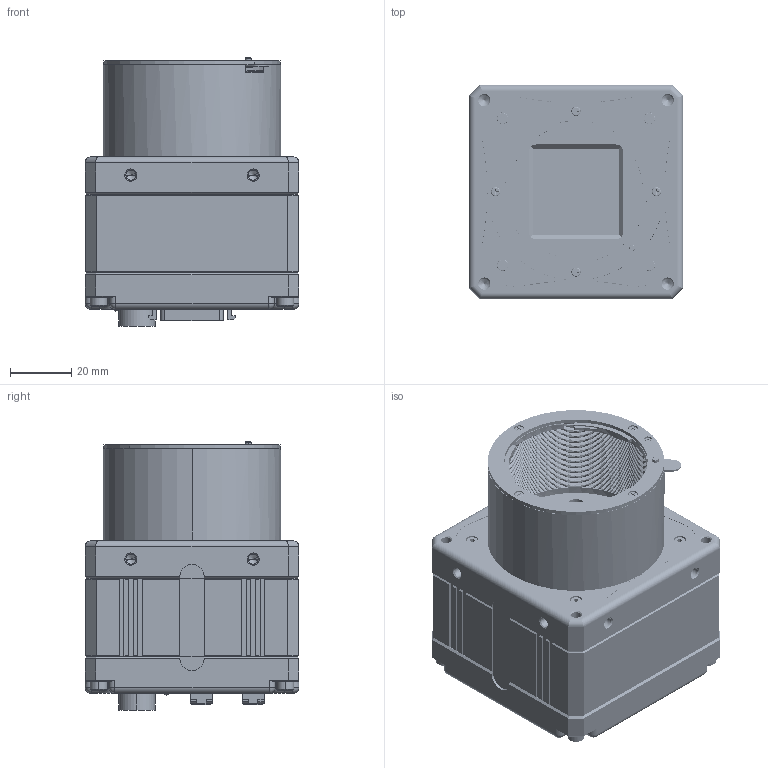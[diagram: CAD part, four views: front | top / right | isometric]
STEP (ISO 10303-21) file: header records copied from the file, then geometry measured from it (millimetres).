
FILE_DESCRIPTION((''),'2;1');
FILE_NAME('HV-M1230C_ASM','2021-04-23T',('Dongwoo'),(''),'CREO PARAMETRIC BY PTC INC, 2016130','CREO PARAMETRIC BY PTC INC, 2016130','');
FILE_SCHEMA(('CONFIG_CONTROL_DESIGN'));
Length unit declared in the file: millimetre
Products named in the file (24): HV-X1230C_BASE_10_1_1; HV-X2535C_MIDDLE_6_1_1; HV-X2535C_BACK_7_1_1; HV-X2535C_SAR_M_GLASS_4_1_1; HV-X2535C_GLASS_COVER_4_1_1; 12MEGA-BACK-BOARD_2_1_1; HIROSE-DF17-3_0-70DS-0_5V_4_1_1; 3M_10226_2210PE_5_1_1; CIR-12P-CONNECTOR_4_1_1; 3PI_LED_4_1_1; 12MEGA-BACK-BOARD-ASSY_ASM_2__1_ASM; BOLT_SH_M2_L5_SUS_3_1_1; BOLT_SH_M3_L25_SUS_4_1_1; HV-X1230C_ASM_18_ASM_1_ASM_1_ASM; HV-X1230C_ASM_ASM_1_ASM_1_ASM; HV-X1230C_ASM_ASM_ASM_1_ASM; F-MOUNT_SPACER_A; F-MOUNT_RING; F-MOUNT_LEVER; F-MOUNT_LOCK_PIN; F-MOUNT_BURRING_PIN; CH_M2_0_L3; F-MOUNT_TYPE_A_ASM; HV-M1230C_ASM
Assembly tree (34 placements, depth 6):
  HV-M1230C_ASM
    HV-X1230C_ASM_ASM_ASM_1_ASM
      HV-X1230C_ASM_ASM_1_ASM_1_ASM
        HV-X1230C_ASM_18_ASM_1_ASM_1_ASM
          HV-X1230C_BASE_10_1_1
          HV-X2535C_MIDDLE_6_1_1
          HV-X2535C_BACK_7_1_1
          HV-X2535C_SAR_M_GLASS_4_1_1
          HV-X2535C_GLASS_COVER_4_1_1
          12MEGA-BACK-BOARD-ASSY_ASM_2__1_ASM
            12MEGA-BACK-BOARD_2_1_1
            HIROSE-DF17-3_0-70DS-0_5V_4_1_1  x2
            3M_10226_2210PE_5_1_1  x2
            CIR-12P-CONNECTOR_4_1_1
            3PI_LED_4_1_1
          BOLT_SH_M2_L5_SUS_3_1_1  x4
          BOLT_SH_M3_L25_SUS_4_1_1  x4
    F-MOUNT_TYPE_A_ASM
      F-MOUNT_SPACER_A
      F-MOUNT_RING
      F-MOUNT_LEVER
      F-MOUNT_LOCK_PIN
      F-MOUNT_BURRING_PIN
      CH_M2_0_L3  x4
Bounding box: 70 x 70 x 87.83 mm (x, y, z)
Volume: 307979.8 mm3; surface area: 106808.7 mm2
Topology: 29 solids, 81 shells, 5061 faces, 14329 edges, 9484 vertices
Faces by surface type: plane 3296, cylinder 1501, cone 179, bspline 55, torus 20, sphere 10
Entity records: 127303 total; most frequent: CARTESIAN_POINT 42753, ORIENTED_EDGE 17676, DIRECTION 17129, EDGE_CURVE 8930, VECTOR 6225, LINE 6225, VERTEX_POINT 5933, AXIS2_PLACEMENT_3D 5452
